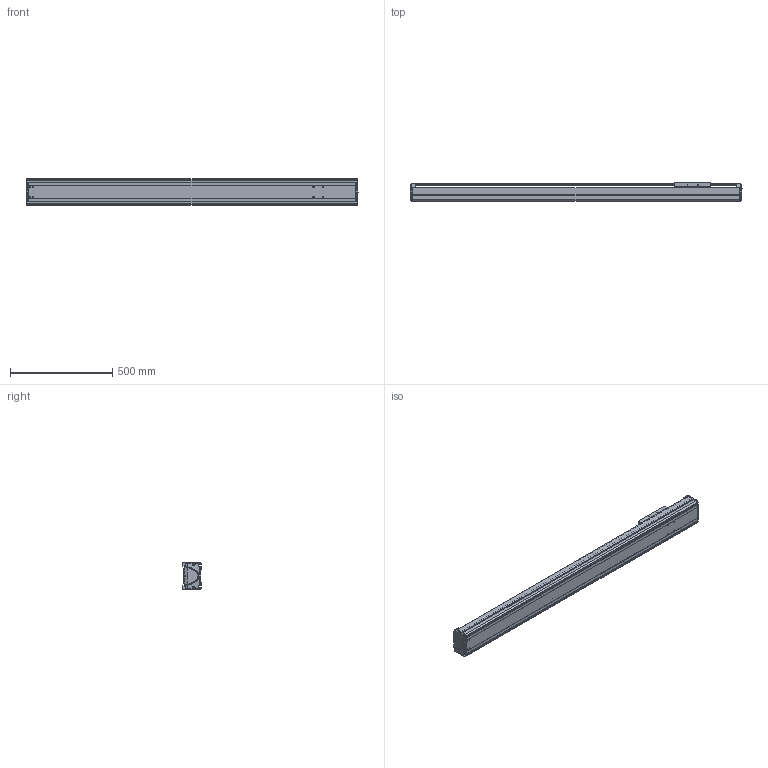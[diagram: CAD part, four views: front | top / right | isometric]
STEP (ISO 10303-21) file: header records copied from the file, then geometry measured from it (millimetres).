
FILE_DESCRIPTION((''),'2;1');
FILE_NAME('BE30E-ST-L_B-C5_IGS_PRT','2017-06-17T',(' '),(''),'PRO/ENGINEER BY PARAMETRIC TECHNOLOGY CORPORATION, 2015030','PRO/ENGINEER BY PARAMETRIC TECHNOLOGY CORPORATION, 2015030','');
FILE_SCHEMA(('CONFIG_CONTROL_DESIGN'));
Length unit declared in the file: millimetre
Products named in the file (1): BE30E-ST-L_B-C5_IGS_PRT
Bounding box: 1625 x 89.8 x 130 mm (x, y, z)
Volume: 4960348.2 mm3; surface area: 1926908.6 mm2
Topology: 3 solids, 104 shells, 1452 faces, 3936 edges, 2579 vertices
Faces by surface type: cylinder 691, plane 610, bspline 55, torus 42, cone 30, sphere 24
Entity records: 49047 total; most frequent: CARTESIAN_POINT 12265, DIRECTION 7603, ORIENTED_EDGE 7430, EDGE_CURVE 3916, AXIS2_PLACEMENT_3D 2778, VERTEX_POINT 2579, VECTOR 2047, LINE 2047
